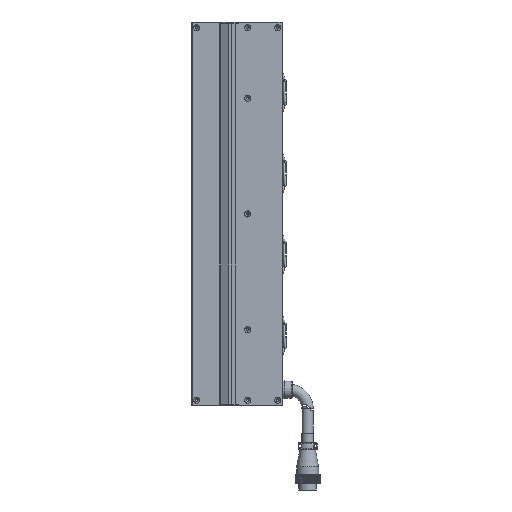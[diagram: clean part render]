
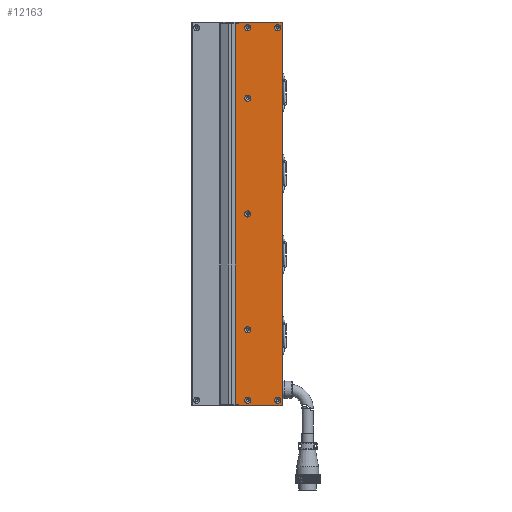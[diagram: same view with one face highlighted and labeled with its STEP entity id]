
A CAD part, left-side view. The second image highlights one B-rep face of the part: STEP entity #12163.
In plain terms, the highlighted planar face has unit normal (-1, 0, 0).
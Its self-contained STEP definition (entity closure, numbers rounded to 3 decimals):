
#814 = AXIS2_PLACEMENT_3D ( 'NONE', #27038, #27721, #51855 ) ;
#1063 = VECTOR ( 'NONE', #51460, 1000. ) ;
#1360 = LINE ( 'NONE', #24086, #38918 ) ;
#2037 = CARTESIAN_POINT ( 'NONE',  ( -24.998, -26.5, 198.5 ) ) ;
#2659 = AXIS2_PLACEMENT_3D ( 'NONE', #88125, #40158, #48165 ) ;
#2983 = EDGE_LOOP ( 'NONE', ( #77391 ) ) ;
#3395 = ORIENTED_EDGE ( 'NONE', *, *, #57195, .F. ) ;
#3693 = CARTESIAN_POINT ( 'NONE',  ( -24.998, -36.5, 0. ) ) ;
#3761 = DIRECTION ( 'NONE',  ( 0., 0., -1. ) ) ;
#3829 = ORIENTED_EDGE ( 'NONE', *, *, #80160, .T. ) ;
#4122 = CARTESIAN_POINT ( 'NONE',  ( -24.998, -26.5, 190. ) ) ;
#5319 = DIRECTION ( 'NONE',  ( 0., 0., 1. ) ) ;
#5823 = EDGE_LOOP ( 'NONE', ( #42516 ) ) ;
#7667 = ORIENTED_EDGE ( 'NONE', *, *, #53376, .F. ) ;
#8250 = ORIENTED_EDGE ( 'NONE', *, *, #36016, .T. ) ;
#8968 = DIRECTION ( 'NONE',  ( -1., 0., 0. ) ) ;
#9368 = CARTESIAN_POINT ( 'NONE',  ( -24.998, -23.25, -197. ) ) ;
#9637 = CARTESIAN_POINT ( 'NONE',  ( -24.998, -36.5, 120. ) ) ;
#11477 = CIRCLE ( 'NONE', #49865, 3.15 ) ;
#12163 = ADVANCED_FACE ( 'NONE', ( #84597, #38290, #65741, #82073, #33236, #51991, #63214, #58211 ), #50856, .F. ) ;
#16058 = CARTESIAN_POINT ( 'NONE',  ( -24.998, -36.5, -116.85 ) ) ;
#18246 = CARTESIAN_POINT ( 'NONE',  ( -24.998, -36.5, -189.85 ) ) ;
#23369 = VERTEX_POINT ( 'NONE', #52176 ) ;
#23787 = CIRCLE ( 'NONE', #97883, 3.15 ) ;
#24086 = CARTESIAN_POINT ( 'NONE',  ( -24.998, -26.5, -190. ) ) ;
#24747 = EDGE_CURVE ( 'NONE', #97186, #92789, #93435, .T. ) ;
#25721 = DIRECTION ( 'NONE',  ( 0., 0., 1. ) ) ;
#26884 = EDGE_CURVE ( 'NONE', #88608, #88608, #93359, .T. ) ;
#27038 = CARTESIAN_POINT ( 'NONE',  ( -24.998, -72.5, 197. ) ) ;
#27345 = CARTESIAN_POINT ( 'NONE',  ( -24.998, -36.5, 196.15 ) ) ;
#27510 = DIRECTION ( 'NONE',  ( 0., 0., 1. ) ) ;
#27721 = DIRECTION ( 'NONE',  ( 1., 0., 0. ) ) ;
#28609 = VERTEX_POINT ( 'NONE', #54666 ) ;
#30388 = VERTEX_POINT ( 'NONE', #44490 ) ;
#30507 = VECTOR ( 'NONE', #69681, 1000. ) ;
#30611 = VERTEX_POINT ( 'NONE', #16058 ) ;
#31031 = DIRECTION ( 'NONE',  ( 0., -1., 0. ) ) ;
#31373 = CARTESIAN_POINT ( 'NONE',  ( -24.998, -72.5, -197. ) ) ;
#31475 = EDGE_CURVE ( 'NONE', #97347, #97347, #11477, .T. ) ;
#32568 = EDGE_LOOP ( 'NONE', ( #97298 ) ) ;
#33236 = FACE_BOUND ( 'NONE', #5823, .T. ) ;
#33708 = CARTESIAN_POINT ( 'NONE',  ( -24.998, -36.5, 123.15 ) ) ;
#35122 = CARTESIAN_POINT ( 'NONE',  ( -24.998, -67.5, 196.15 ) ) ;
#35514 = EDGE_CURVE ( 'NONE', #45597, #41778, #82407, .T. ) ;
#35542 = EDGE_LOOP ( 'NONE', ( #77620 ) ) ;
#36016 = EDGE_CURVE ( 'NONE', #41778, #28609, #74859, .T. ) ;
#36803 = CARTESIAN_POINT ( 'NONE',  ( -24.998, -72.5, 198.5 ) ) ;
#38290 = FACE_BOUND ( 'NONE', #2983, .T. ) ;
#38918 = VECTOR ( 'NONE', #89557, 1000. ) ;
#39175 = EDGE_CURVE ( 'NONE', #50909, #50909, #23787, .T. ) ;
#40158 = DIRECTION ( 'NONE',  ( -1., 0., 0. ) ) ;
#41778 = VERTEX_POINT ( 'NONE', #2037 ) ;
#42193 = DIRECTION ( 'NONE',  ( -1., 0., 0. ) ) ;
#42516 = ORIENTED_EDGE ( 'NONE', *, *, #101948, .F. ) ;
#44490 = CARTESIAN_POINT ( 'NONE',  ( -24.998, -23.25, 197. ) ) ;
#44797 = ORIENTED_EDGE ( 'NONE', *, *, #24747, .T. ) ;
#45206 = CARTESIAN_POINT ( 'NONE',  ( -24.998, -67.5, 193. ) ) ;
#45597 = VERTEX_POINT ( 'NONE', #90201 ) ;
#47129 = CARTESIAN_POINT ( 'NONE',  ( -24.998, -26.5, -198.5 ) ) ;
#48165 = DIRECTION ( 'NONE',  ( 0., 0., 1. ) ) ;
#48200 = DIRECTION ( 'NONE',  ( 0., -1., 0. ) ) ;
#48518 = VECTOR ( 'NONE', #3761, 1000. ) ;
#48532 = CARTESIAN_POINT ( 'NONE',  ( -24.998, -23.25, -197. ) ) ;
#48744 = AXIS2_PLACEMENT_3D ( 'NONE', #3693, #42193, #66303 ) ;
#49865 = AXIS2_PLACEMENT_3D ( 'NONE', #9637, #8968, #25721 ) ;
#49984 = EDGE_LOOP ( 'NONE', ( #79935, #70328, #44797, #3829, #75182, #8250, #69216, #55878 ) ) ;
#50856 = PLANE ( 'NONE',  #814 ) ;
#50909 = VERTEX_POINT ( 'NONE', #35122 ) ;
#51460 = DIRECTION ( 'NONE',  ( 0., 1., 0. ) ) ;
#51855 = DIRECTION ( 'NONE',  ( 0., 0., -1. ) ) ;
#51991 = FACE_BOUND ( 'NONE', #32568, .T. ) ;
#52176 = CARTESIAN_POINT ( 'NONE',  ( -24.998, -36.5, 3.15 ) ) ;
#52484 = LINE ( 'NONE', #48532, #72475 ) ;
#53376 = EDGE_CURVE ( 'NONE', #101124, #101124, #99339, .T. ) ;
#53544 = CARTESIAN_POINT ( 'NONE',  ( -24.998, -72., -198.5 ) ) ;
#53612 = EDGE_LOOP ( 'NONE', ( #7667 ) ) ;
#54666 = CARTESIAN_POINT ( 'NONE',  ( -24.998, -26.5, 197. ) ) ;
#55584 = CIRCLE ( 'NONE', #100392, 3.15 ) ;
#55878 = ORIENTED_EDGE ( 'NONE', *, *, #73226, .F. ) ;
#56162 = DIRECTION ( 'NONE',  ( 0., -1., 0. ) ) ;
#57195 = EDGE_CURVE ( 'NONE', #23369, #23369, #63606, .T. ) ;
#57985 = DIRECTION ( 'NONE',  ( 0., 0., 1. ) ) ;
#58211 = FACE_BOUND ( 'NONE', #35542, .T. ) ;
#58737 = VERTEX_POINT ( 'NONE', #9368 ) ;
#58917 = CARTESIAN_POINT ( 'NONE',  ( -24.998, -36.5, -120. ) ) ;
#59282 = AXIS2_PLACEMENT_3D ( 'NONE', #75504, #92316, #27510 ) ;
#59490 = ORIENTED_EDGE ( 'NONE', *, *, #31475, .F. ) ;
#61332 = VECTOR ( 'NONE', #56162, 1000. ) ;
#63214 = FACE_OUTER_BOUND ( 'NONE', #49984, .T. ) ;
#63606 = CIRCLE ( 'NONE', #48744, 3.15 ) ;
#65009 = DIRECTION ( 'NONE',  ( -1., 0., 0. ) ) ;
#65277 = VECTOR ( 'NONE', #31031, 1000. ) ;
#65741 = FACE_BOUND ( 'NONE', #95788, .T. ) ;
#66303 = DIRECTION ( 'NONE',  ( 0., 0., 1. ) ) ;
#68215 = EDGE_CURVE ( 'NONE', #30388, #28609, #79096, .T. ) ;
#69216 = ORIENTED_EDGE ( 'NONE', *, *, #68215, .F. ) ;
#69295 = CARTESIAN_POINT ( 'NONE',  ( -24.998, -26.5, -197. ) ) ;
#69681 = DIRECTION ( 'NONE',  ( 0., 0., 1. ) ) ;
#70328 = ORIENTED_EDGE ( 'NONE', *, *, #85946, .T. ) ;
#70704 = VERTEX_POINT ( 'NONE', #96267 ) ;
#72063 = VECTOR ( 'NONE', #48200, 1000. ) ;
#72475 = VECTOR ( 'NONE', #80091, 1000. ) ;
#73093 = LINE ( 'NONE', #76729, #30507 ) ;
#73226 = EDGE_CURVE ( 'NONE', #58737, #30388, #52484, .T. ) ;
#74859 = LINE ( 'NONE', #4122, #48518 ) ;
#75076 = DIRECTION ( 'NONE',  ( -1., 0., 0. ) ) ;
#75182 = ORIENTED_EDGE ( 'NONE', *, *, #35514, .T. ) ;
#75432 = DIRECTION ( 'NONE',  ( 0., 0., 1. ) ) ;
#75504 = CARTESIAN_POINT ( 'NONE',  ( -24.998, -36.5, 193. ) ) ;
#76729 = CARTESIAN_POINT ( 'NONE',  ( -24.998, -72., 197. ) ) ;
#77391 = ORIENTED_EDGE ( 'NONE', *, *, #99734, .F. ) ;
#77620 = ORIENTED_EDGE ( 'NONE', *, *, #39175, .F. ) ;
#78296 = EDGE_LOOP ( 'NONE', ( #3395 ) ) ;
#78475 = CIRCLE ( 'NONE', #90236, 3.15 ) ;
#79096 = LINE ( 'NONE', #102232, #65277 ) ;
#79935 = ORIENTED_EDGE ( 'NONE', *, *, #85371, .T. ) ;
#80091 = DIRECTION ( 'NONE',  ( 0., 0., 1. ) ) ;
#80160 = EDGE_CURVE ( 'NONE', #92789, #45597, #73093, .T. ) ;
#82073 = FACE_BOUND ( 'NONE', #78296, .T. ) ;
#82407 = LINE ( 'NONE', #36803, #1063 ) ;
#82678 = LINE ( 'NONE', #31373, #61332 ) ;
#84597 = FACE_BOUND ( 'NONE', #53612, .T. ) ;
#85371 = EDGE_CURVE ( 'NONE', #58737, #93889, #82678, .T. ) ;
#85946 = EDGE_CURVE ( 'NONE', #93889, #97186, #1360, .T. ) ;
#88125 = CARTESIAN_POINT ( 'NONE',  ( -24.998, -36.5, -193. ) ) ;
#88608 = VERTEX_POINT ( 'NONE', #18246 ) ;
#89557 = DIRECTION ( 'NONE',  ( 0., 0., -1. ) ) ;
#90201 = CARTESIAN_POINT ( 'NONE',  ( -24.998, -72., 198.5 ) ) ;
#90236 = AXIS2_PLACEMENT_3D ( 'NONE', #58917, #75076, #75432 ) ;
#90277 = CARTESIAN_POINT ( 'NONE',  ( -24.998, -67.5, -193. ) ) ;
#92316 = DIRECTION ( 'NONE',  ( -1., 0., 0. ) ) ;
#92789 = VERTEX_POINT ( 'NONE', #53544 ) ;
#93359 = CIRCLE ( 'NONE', #2659, 3.15 ) ;
#93435 = LINE ( 'NONE', #96199, #72063 ) ;
#93889 = VERTEX_POINT ( 'NONE', #69295 ) ;
#95788 = EDGE_LOOP ( 'NONE', ( #59490 ) ) ;
#96199 = CARTESIAN_POINT ( 'NONE',  ( -24.998, -72.5, -198.5 ) ) ;
#96267 = CARTESIAN_POINT ( 'NONE',  ( -24.998, -67.5, -189.85 ) ) ;
#97186 = VERTEX_POINT ( 'NONE', #47129 ) ;
#97298 = ORIENTED_EDGE ( 'NONE', *, *, #26884, .F. ) ;
#97347 = VERTEX_POINT ( 'NONE', #33708 ) ;
#97883 = AXIS2_PLACEMENT_3D ( 'NONE', #45206, #101267, #5319 ) ;
#99339 = CIRCLE ( 'NONE', #59282, 3.15 ) ;
#99734 = EDGE_CURVE ( 'NONE', #30611, #30611, #78475, .T. ) ;
#100392 = AXIS2_PLACEMENT_3D ( 'NONE', #90277, #65009, #57985 ) ;
#101124 = VERTEX_POINT ( 'NONE', #27345 ) ;
#101267 = DIRECTION ( 'NONE',  ( -1., 0., 0. ) ) ;
#101948 = EDGE_CURVE ( 'NONE', #70704, #70704, #55584, .T. ) ;
#102232 = CARTESIAN_POINT ( 'NONE',  ( -24.998, -72.5, 197. ) ) ;
